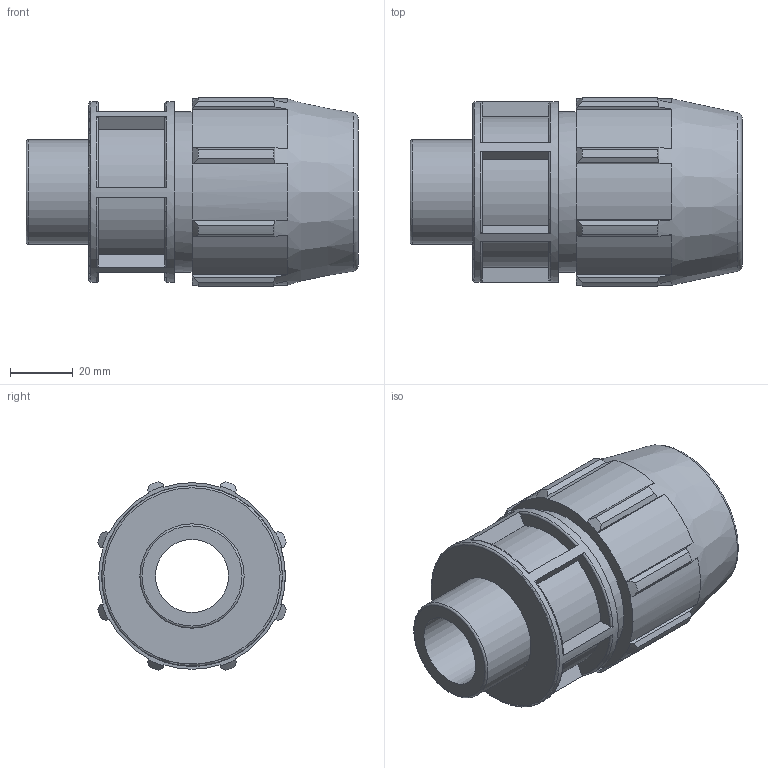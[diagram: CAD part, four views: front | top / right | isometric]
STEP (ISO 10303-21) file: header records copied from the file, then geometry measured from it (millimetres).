
FILE_DESCRIPTION(/* description */ ('PLASSON MALE ADAPTOR 1'''' - 1''''M'),/* implementation_level */ '2;1');
FILE_NAME(/* name */ 'C:\Dropbox\KIMPROJECTS-Inventor 2019\99-16-3568-Processing Inch\ASTM Compression 2021\0702M0T\0702M0T10010.ipt.stp',/* time_stamp */ '2021-08-26T12:30:13+03:00',/* author */ ('KIM'),/* organization */ (''),/* preprocessor_version */ 'ST-DEVELOPER v17.2',/* originating_system */ 'Autodesk Inventor 2019',/* authorisation */ '');
FILE_SCHEMA (('AUTOMOTIVE_DESIGN { 1 0 10303 214 3 1 1 }'));
Length unit declared in the file: inch
Products named in the file (1): 0702M0T10010
Bounding box: 105.92 x 60.23 x 60.23 mm (x, y, z)
Volume: 141272.3 mm3; surface area: 35910.2 mm2
Topology: 1 solids, 1 shells, 124 faces, 348 edges, 237 vertices
Faces by surface type: plane 63, cylinder 27, cone 19, torus 15
Full cylindrical faces by diameter (mm): 23.274 x1, 33.249 x1, 33.3 x1, 51.206 x1, 57.607 x1
Entity records: 4379 total; most frequent: CARTESIAN_POINT 990, ORIENTED_EDGE 696, DIRECTION 666, EDGE_CURVE 348, AXIS2_PLACEMENT_3D 249, VERTEX_POINT 237, LINE 168, VECTOR 168
